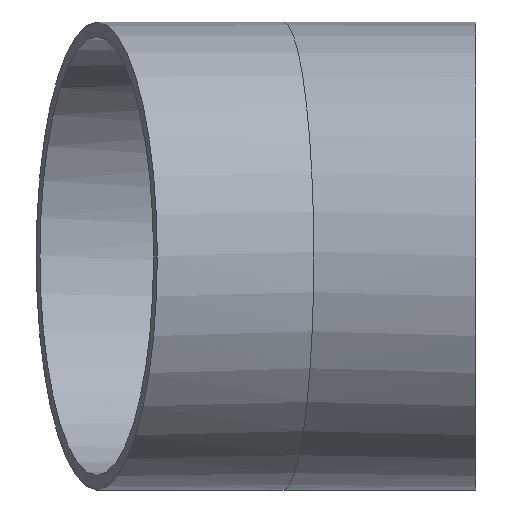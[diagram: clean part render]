
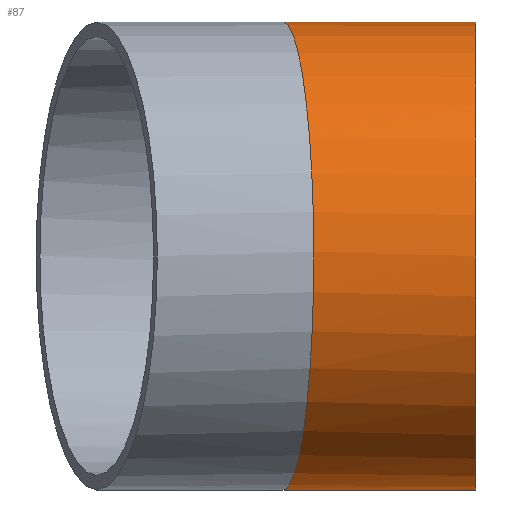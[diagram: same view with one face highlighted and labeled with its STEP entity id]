
A CAD part, left-side view. The second image highlights one B-rep face of the part: STEP entity #87.
In plain terms, the highlighted cylindrical face has radius 125 mm (diameter 250 mm), a full revolution.
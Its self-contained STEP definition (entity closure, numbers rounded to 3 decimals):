
#20=FACE_BOUND($,#40,.T.);
#25=ELLIPSE($,#98,126.079,125.);
#26=ELLIPSE($,#99,126.079,125.);
#30=FACE_OUTER_BOUND($,#39,.T.);
#39=EDGE_LOOP($,(#74,#75));
#40=EDGE_LOOP($,(#76));
#46=CIRCLE($,#104,125.);
#51=VERTEX_POINT($,#147);
#52=VERTEX_POINT($,#148);
#54=VERTEX_POINT($,#156);
#59=EDGE_CURVE($,#51,#52,#25,.T.);
#60=EDGE_CURVE($,#52,#51,#26,.T.);
#62=EDGE_CURVE($,#54,#54,#46,.T.);
#74=ORIENTED_EDGE($,*,*,#59,.T.);
#75=ORIENTED_EDGE($,*,*,#60,.T.);
#76=ORIENTED_EDGE($,*,*,#62,.F.);
#82=CYLINDRICAL_SURFACE($,#103,125.);
#87=ADVANCED_FACE($,(#30,#20),#82,.T.);
#98=AXIS2_PLACEMENT_3D($,#149,#120,#121);
#99=AXIS2_PLACEMENT_3D($,#150,#122,#123);
#103=AXIS2_PLACEMENT_3D($,#155,#130,#131);
#104=AXIS2_PLACEMENT_3D($,#157,#132,#133);
#120=DIRECTION('center_axis',(0.131,-0.991,0.));
#121=DIRECTION('ref_axis',(0.991,0.131,0.));
#122=DIRECTION('center_axis',(0.131,-0.991,0.));
#123=DIRECTION('ref_axis',(0.991,0.131,0.));
#130=DIRECTION('center_axis',(0.,1.,0.));
#131=DIRECTION('ref_axis',(1.,0.,0.));
#132=DIRECTION('center_axis',(0.,-1.,0.));
#133=DIRECTION('ref_axis',(1.,0.,0.));
#147=CARTESIAN_POINT('',(0.,103.,125.));
#148=CARTESIAN_POINT('',(0.,103.,-125.));
#149=CARTESIAN_POINT('Origin',(0.,103.,0.));
#150=CARTESIAN_POINT('Origin',(0.,103.,0.));
#155=CARTESIAN_POINT('Origin',(0.,0.,0.));
#156=CARTESIAN_POINT('',(-125.,0.,0.));
#157=CARTESIAN_POINT('Origin',(0.,0.,0.));
